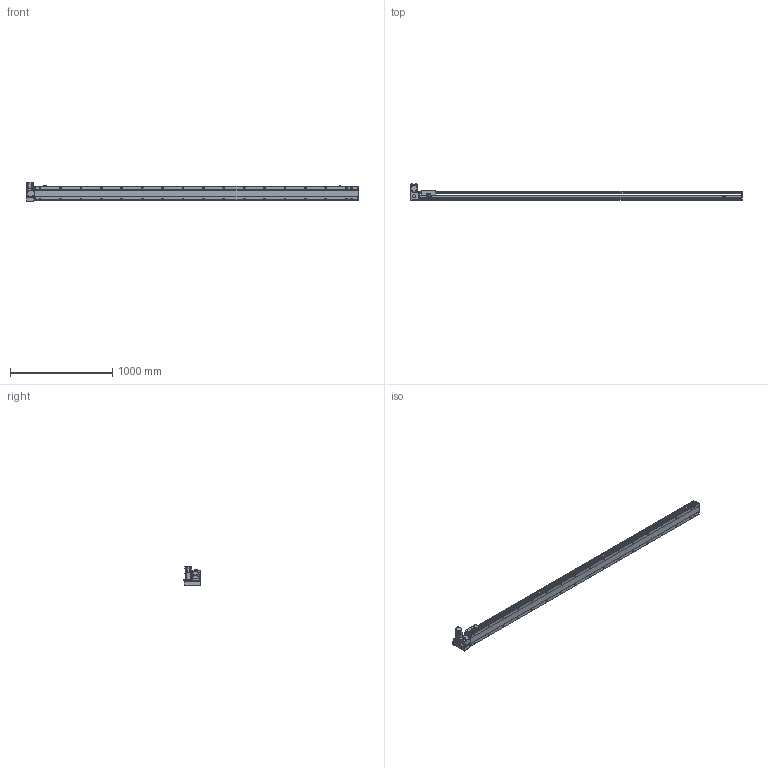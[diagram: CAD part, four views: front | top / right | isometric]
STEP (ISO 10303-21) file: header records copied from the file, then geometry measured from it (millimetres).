
FILE_DESCRIPTION(/* description */ ('STEP AP214'),/* implementation_level */ '2;1');
FILE_NAME(/* name */ 'PBS140S-P40-S2900-LU-T40-C1-N(0)',/* time_stamp */ '2022-06-09T02:37:12+02:00',/* author */ ('License CC BY-ND 4.0'),/* organization */ ('CADENAS'),/* preprocessor_version */ 'ST-DEVELOPER v18.102',/* originating_system */ 'PARTsolutions',/* authorisation */ ' ');
FILE_SCHEMA (('AUTOMOTIVE_DESIGN {1 0 10303 214 3 1 1}'));
Length unit declared in the file: millimetre
Products named in the file (7): PBS140S-P40-S2900-LU-T40-C1-N(0); PBS140S_sensor; PBS140S_plant; PBS140S_sliser; T40-p1; PBS140ST-LU_motors; PBS140S-S2900()_body
Assembly tree (8 placements, depth 2):
  PBS140S-P40-S2900-LU-T40-C1-N(0)
    PBS140S_sensor  x3
    PBS140S_plant
    PBS140S_sliser
    T40-p1
    PBS140ST-LU_motors
    PBS140S-S2900()_body
Bounding box: 3254 x 162.5 x 189.7 mm (x, y, z)
Volume: 15689833 mm3; surface area: 2635598.8 mm2
Topology: 8 solids, 8 shells, 1243 faces, 3271 edges, 2139 vertices
Faces by surface type: plane 756, cylinder 417, cone 60, sphere 8, torus 2
Full cylindrical faces by diameter (mm): 3.242 x4, 4 x2, 4.134 x4, 4.4 x8, 4.5 x2, 4.8 x4, 4.917 x42, 5.5 x7, 6 x2, 7 x36, 7.5 x8, 8 x12, 8.5 x4, 10.5 x34, 14 x1, 30 x2, 50 x2
Entity records: 35618 total; most frequent: CARTESIAN_POINT 6824, DIRECTION 5978, ORIENTED_EDGE 5602, EDGE_CURVE 2801, AXIS2_PLACEMENT_3D 2129, VERTEX_POINT 1969, LINE 1720, VECTOR 1720
